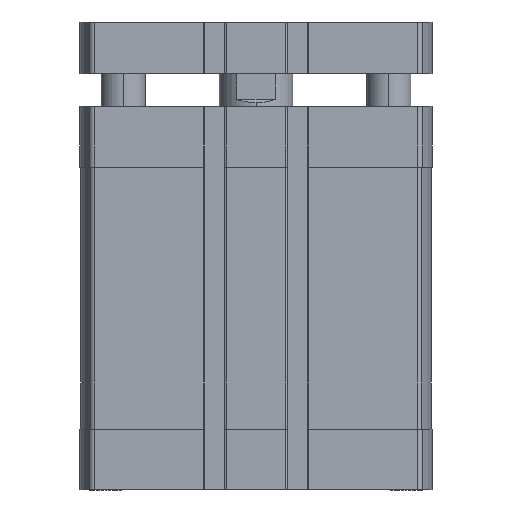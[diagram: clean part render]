
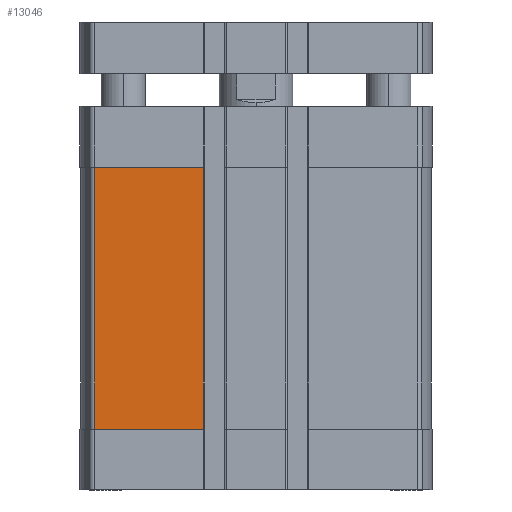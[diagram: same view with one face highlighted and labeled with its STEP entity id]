
A CAD part, front view. The second image highlights one B-rep face of the part: STEP entity #13046.
In plain terms, the highlighted planar face has unit normal (0, -1, 0) as drawn and (-1, 0, 0) by its records, which use the part's own axes.
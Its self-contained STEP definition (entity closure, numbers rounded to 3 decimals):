
#248 = EDGE_LOOP ( 'NONE', ( #1659, #22241, #16729, #14625 ) ) ;
#617 = CARTESIAN_POINT ( 'NONE',  ( -47.5, 43.743, -87.5 ) ) ;
#843 = VERTEX_POINT ( 'NONE', #13146 ) ;
#1659 = ORIENTED_EDGE ( 'NONE', *, *, #3816, .T. ) ;
#1838 = LINE ( 'NONE', #13170, #15501 ) ;
#2403 = EDGE_CURVE ( 'NONE', #843, #3753, #21825, .T. ) ;
#2533 = VECTOR ( 'NONE', #18267, 1000. ) ;
#2857 = AXIS2_PLACEMENT_3D ( 'NONE', #7810, #18901, #7885 ) ;
#3753 = VERTEX_POINT ( 'NONE', #617 ) ;
#3816 = EDGE_CURVE ( 'NONE', #3753, #22267, #19697, .T. ) ;
#4101 = PLANE ( 'NONE',  #2857 ) ;
#5639 = DIRECTION ( 'NONE',  ( 0., -1., 0. ) ) ;
#7810 = CARTESIAN_POINT ( 'NONE',  ( -47.5, 43.743, -87.5 ) ) ;
#7885 = DIRECTION ( 'NONE',  ( 0., 0., 1. ) ) ;
#9568 = DIRECTION ( 'NONE',  ( 0., 1., 0. ) ) ;
#9737 = EDGE_CURVE ( 'NONE', #14360, #843, #1838, .T. ) ;
#9866 = CARTESIAN_POINT ( 'NONE',  ( -47.5, 14.3, -87.5 ) ) ;
#12452 = CARTESIAN_POINT ( 'NONE',  ( -47.5, 43.743, -87.5 ) ) ;
#13046 = ADVANCED_FACE ( 'NONE', ( #22677 ), #4101, .T. ) ;
#13146 = CARTESIAN_POINT ( 'NONE',  ( -47.5, 43.743, -16.5 ) ) ;
#13170 = CARTESIAN_POINT ( 'NONE',  ( -47.5, 0., -16.5 ) ) ;
#14360 = VERTEX_POINT ( 'NONE', #17842 ) ;
#14625 = ORIENTED_EDGE ( 'NONE', *, *, #2403, .T. ) ;
#14851 = CARTESIAN_POINT ( 'NONE',  ( -47.5, 43.743, -87.5 ) ) ;
#15501 = VECTOR ( 'NONE', #9568, 1000. ) ;
#16430 = CARTESIAN_POINT ( 'NONE',  ( -47.5, 14.3, -87.5 ) ) ;
#16729 = ORIENTED_EDGE ( 'NONE', *, *, #9737, .T. ) ;
#17091 = EDGE_CURVE ( 'NONE', #22267, #14360, #17329, .T. ) ;
#17329 = LINE ( 'NONE', #16430, #2533 ) ;
#17842 = CARTESIAN_POINT ( 'NONE',  ( -47.5, 14.3, -16.5 ) ) ;
#18267 = DIRECTION ( 'NONE',  ( 0., 0., 1. ) ) ;
#18583 = VECTOR ( 'NONE', #5639, 1000. ) ;
#18901 = DIRECTION ( 'NONE',  ( -1., 0., 0. ) ) ;
#19697 = LINE ( 'NONE', #14851, #18583 ) ;
#21232 = DIRECTION ( 'NONE',  ( 0., 0., -1. ) ) ;
#21825 = LINE ( 'NONE', #12452, #22012 ) ;
#22012 = VECTOR ( 'NONE', #21232, 1000. ) ;
#22241 = ORIENTED_EDGE ( 'NONE', *, *, #17091, .T. ) ;
#22267 = VERTEX_POINT ( 'NONE', #9866 ) ;
#22677 = FACE_OUTER_BOUND ( 'NONE', #248, .T. ) ;
